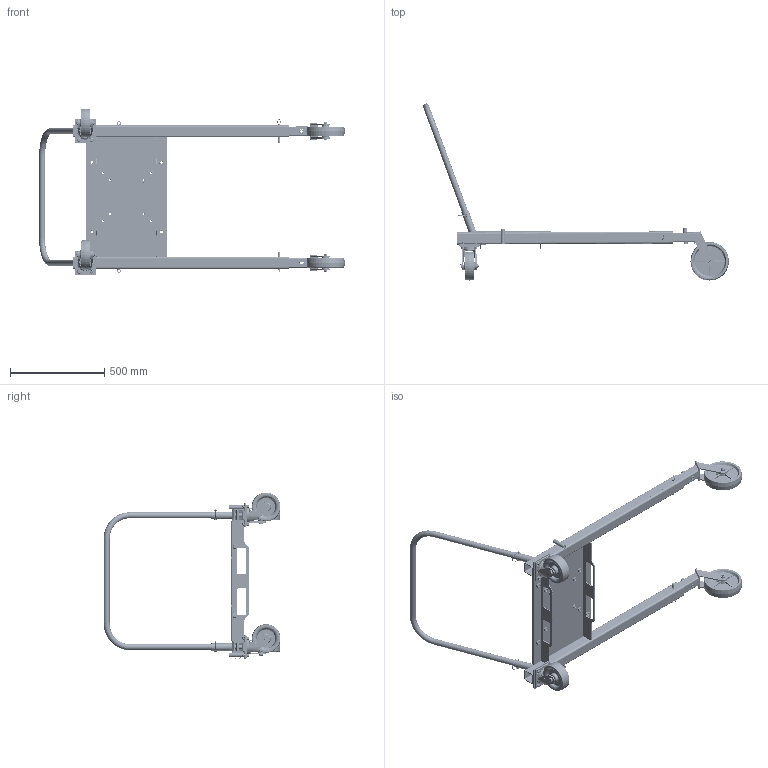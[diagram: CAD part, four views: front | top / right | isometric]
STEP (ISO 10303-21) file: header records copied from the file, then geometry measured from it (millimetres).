
FILE_DESCRIPTION (( 'STEP AP214' ), '1' );
FILE_NAME ('OZWB.STEP', '2024-06-14T13:29:02', ( '' ), ( '' ), 'SwSTEP 2.0', 'SolidWorks 2023', '' );
FILE_SCHEMA (( 'AUTOMOTIVE_DESIGN' ));
Length unit declared in the file: inch
Products named in the file (36): D0029; OZ110027; OZ220046_Default<As Machined>; OZ210013_Default<As Machined>; D0015; OZ220045; OZ110028; .63-11 Steel Hex Weld Nut_93560A280; OZ210016_Default<As Machined>; OZ240010_99904A103; OZ240011_92979A344; .50-13 Steel Hex Weld Nut_93560A180; D0028; D0032; D0034; OZWB; OZ210017_Default<As Machined>; OZ240009_2781T48; OZ110030; OZ220047_Default<As Machined>; D0036; D0033; OZ210015; OZ110029; OZ240013_2408T194; D0031; OZ100004_RH; OZ240012_98320A510; D0035; D0030; D0027; OZ220043_Default<As Machined>; OZ240049_23595T44; OZ220044_Default<As Machined>; OZ240014; OZ210014_Default<As Machined>
Assembly tree (75 placements, depth 5):
  OZWB
    OZ110029
      OZ110027
        OZ220043_Default<As Machined>
        OZ220044_Default<As Machined>  x2
        .50-13 Steel Hex Weld Nut_93560A180  x8
        .63-11 Steel Hex Weld Nut_93560A280  x4
      OZ210016_Default<As Machined>  x2
      OZ210017_Default<As Machined>  x2
      OZ220045  x2
      OZ210015  x2
    OZ100004_RH  x2
      OZ110030
        OZ210013_Default<As Machined>
        OZ210017_Default<As Machined>
        OZ110028
          OZ220047_Default<As Machined>
          OZ220046_Default<As Machined>  x2
      OZ240009_2781T48
      OZ240049_23595T44
    OZ240013_2408T194  x2
    OZ240012_98320A510  x2
    OZ240011_92979A344  x8
    OZ240010_99904A103  x8
    OZ210014_Default<As Machined>
    OZ240014  x2
    D0028
    D0027
    D0030
    D0031
    D0029
    D0032
    D0033  x4
    D0034  x2
    D0015  x2
    D0036
    D0035
Bounding box: 1618.4 x 936.59 x 883.85 mm (x, y, z)
Volume: 11709071.9 mm3; surface area: 4086815.5 mm2
Topology: 130 solids, 130 shells, 3060 faces, 7755 edges, 5087 vertices
Faces by surface type: plane 1730, cylinder 698, cone 404, torus 130, bspline 94, sphere 4
Full cylindrical faces by diameter (mm): 1.575 x2, 1.6 x2, 1.778 x48, 4.343 x2, 4.778 x2, 5.08 x2, 5.556 x24, 6.985 x2, 7.112 x2, 7.144 x4, 9.525 x4, 9.922 x8, 12.7 x34, 13.081 x4, 13.097 x20, 13.494 x4, 13.868 x4, 14.097 x8, 15.85 x2, 15.875 x4, 17.78 x6, 18.256 x8, 18.542 x8, 19.05 x10, 19.844 x4, 20.066 x4, 21.336 x4, 22.098 x4, 22.225 x4, 23.876 x2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
Entity records: 46232 total; most frequent: CARTESIAN_POINT 21062, DIRECTION 4763, ORIENTED_EDGE 4614, EDGE_CURVE 2307, AXIS2_PLACEMENT_3D 1873, VERTEX_POINT 1609, EDGE_LOOP 1476, FACE_OUTER_BOUND 1201
